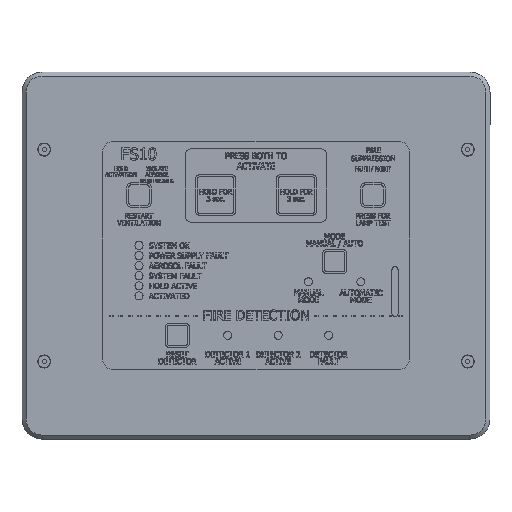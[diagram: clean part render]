
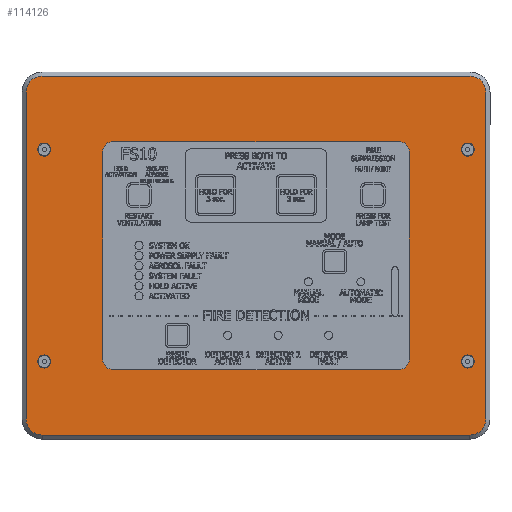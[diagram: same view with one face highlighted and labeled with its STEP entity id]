
A CAD part, top view. The second image highlights one B-rep face of the part: STEP entity #114126.
In plain terms, the highlighted planar face has unit normal (0, 0, 1).
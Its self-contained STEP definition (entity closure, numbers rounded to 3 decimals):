
#5497=FACE_BOUND('',#23947,.T.);
#5498=FACE_BOUND('',#23948,.T.);
#5499=FACE_BOUND('',#23949,.T.);
#5500=FACE_BOUND('',#23950,.T.);
#5501=FACE_BOUND('',#23951,.T.);
#8660=CIRCLE('',#121854,3.25);
#8662=CIRCLE('',#121858,3.25);
#8664=CIRCLE('',#121862,3.25);
#8666=CIRCLE('',#121866,3.25);
#8688=CIRCLE('',#121909,8.);
#8690=CIRCLE('',#121913,8.);
#8692=CIRCLE('',#121917,8.);
#8694=CIRCLE('',#121921,8.);
#8695=CIRCLE('',#121927,5.);
#8696=CIRCLE('',#121928,5.);
#8697=CIRCLE('',#121929,5.);
#8698=CIRCLE('',#121930,5.);
#9459=PLANE('',#121926);
#17468=FACE_OUTER_BOUND('',#23946,.T.);
#23946=EDGE_LOOP('',(#85837,#85838,#85839,#85840,#85841,#85842,#85843,#85844));
#23947=EDGE_LOOP('',(#85845));
#23948=EDGE_LOOP('',(#85846));
#23949=EDGE_LOOP('',(#85847));
#23950=EDGE_LOOP('',(#85848));
#23951=EDGE_LOOP('',(#85849,#85850,#85851,#85852,#85853,#85854,#85855,#85856));
#30926=LINE('',#180756,#42250);
#30931=LINE('',#180770,#42255);
#30935=LINE('',#180782,#42259);
#30939=LINE('',#180794,#42263);
#30946=LINE('',#180811,#42270);
#30947=LINE('',#180815,#42271);
#30948=LINE('',#180819,#42272);
#30949=LINE('',#180823,#42273);
#42250=VECTOR('',#132353,10.);
#42255=VECTOR('',#132366,10.);
#42259=VECTOR('',#132378,10.);
#42263=VECTOR('',#132390,10.);
#42270=VECTOR('',#132413,10.);
#42271=VECTOR('',#132416,10.);
#42272=VECTOR('',#132419,10.);
#42273=VECTOR('',#132422,10.);
#54221=VERTEX_POINT('',#180608);
#54223=VERTEX_POINT('',#180616);
#54225=VERTEX_POINT('',#180624);
#54227=VERTEX_POINT('',#180632);
#54269=VERTEX_POINT('',#180753);
#54270=VERTEX_POINT('',#180755);
#54273=VERTEX_POINT('',#180763);
#54275=VERTEX_POINT('',#180768);
#54277=VERTEX_POINT('',#180775);
#54279=VERTEX_POINT('',#180780);
#54281=VERTEX_POINT('',#180787);
#54283=VERTEX_POINT('',#180792);
#54284=VERTEX_POINT('',#180809);
#54285=VERTEX_POINT('',#180810);
#54286=VERTEX_POINT('',#180812);
#54287=VERTEX_POINT('',#180814);
#54288=VERTEX_POINT('',#180816);
#54289=VERTEX_POINT('',#180818);
#54290=VERTEX_POINT('',#180820);
#54291=VERTEX_POINT('',#180822);
#66172=EDGE_CURVE('',#54221,#54221,#8660,.T.);
#66176=EDGE_CURVE('',#54223,#54223,#8662,.T.);
#66180=EDGE_CURVE('',#54225,#54225,#8664,.T.);
#66184=EDGE_CURVE('',#54227,#54227,#8666,.T.);
#66243=EDGE_CURVE('',#54269,#54270,#30926,.T.);
#66248=EDGE_CURVE('',#54273,#54269,#8688,.T.);
#66250=EDGE_CURVE('',#54275,#54273,#30931,.T.);
#66254=EDGE_CURVE('',#54277,#54275,#8690,.T.);
#66256=EDGE_CURVE('',#54279,#54277,#30935,.T.);
#66260=EDGE_CURVE('',#54281,#54279,#8692,.T.);
#66262=EDGE_CURVE('',#54283,#54281,#30939,.T.);
#66265=EDGE_CURVE('',#54270,#54283,#8694,.T.);
#66271=EDGE_CURVE('',#54284,#54285,#30946,.T.);
#66272=EDGE_CURVE('',#54286,#54285,#8695,.T.);
#66273=EDGE_CURVE('',#54286,#54287,#30947,.T.);
#66274=EDGE_CURVE('',#54288,#54287,#8696,.T.);
#66275=EDGE_CURVE('',#54288,#54289,#30948,.T.);
#66276=EDGE_CURVE('',#54290,#54289,#8697,.T.);
#66277=EDGE_CURVE('',#54290,#54291,#30949,.T.);
#66278=EDGE_CURVE('',#54284,#54291,#8698,.T.);
#85837=ORIENTED_EDGE('',*,*,#66243,.F.);
#85838=ORIENTED_EDGE('',*,*,#66248,.F.);
#85839=ORIENTED_EDGE('',*,*,#66250,.F.);
#85840=ORIENTED_EDGE('',*,*,#66254,.F.);
#85841=ORIENTED_EDGE('',*,*,#66256,.F.);
#85842=ORIENTED_EDGE('',*,*,#66260,.F.);
#85843=ORIENTED_EDGE('',*,*,#66262,.F.);
#85844=ORIENTED_EDGE('',*,*,#66265,.F.);
#85845=ORIENTED_EDGE('',*,*,#66172,.T.);
#85846=ORIENTED_EDGE('',*,*,#66176,.T.);
#85847=ORIENTED_EDGE('',*,*,#66180,.T.);
#85848=ORIENTED_EDGE('',*,*,#66184,.T.);
#85849=ORIENTED_EDGE('',*,*,#66271,.T.);
#85850=ORIENTED_EDGE('',*,*,#66272,.F.);
#85851=ORIENTED_EDGE('',*,*,#66273,.T.);
#85852=ORIENTED_EDGE('',*,*,#66274,.F.);
#85853=ORIENTED_EDGE('',*,*,#66275,.T.);
#85854=ORIENTED_EDGE('',*,*,#66276,.F.);
#85855=ORIENTED_EDGE('',*,*,#66277,.T.);
#85856=ORIENTED_EDGE('',*,*,#66278,.F.);
#114126=ADVANCED_FACE('',(#17468,#5497,#5498,#5499,#5500,#5501),#9459,.T.);
#121854=AXIS2_PLACEMENT_3D('',#180610,#132203,#132204);
#121858=AXIS2_PLACEMENT_3D('',#180618,#132213,#132214);
#121862=AXIS2_PLACEMENT_3D('',#180626,#132223,#132224);
#121866=AXIS2_PLACEMENT_3D('',#180634,#132233,#132234);
#121909=AXIS2_PLACEMENT_3D('',#180765,#132361,#132362);
#121913=AXIS2_PLACEMENT_3D('',#180777,#132373,#132374);
#121917=AXIS2_PLACEMENT_3D('',#180789,#132385,#132386);
#121921=AXIS2_PLACEMENT_3D('',#180798,#132396,#132397);
#121926=AXIS2_PLACEMENT_3D('',#180808,#132411,#132412);
#121927=AXIS2_PLACEMENT_3D('',#180813,#132414,#132415);
#121928=AXIS2_PLACEMENT_3D('',#180817,#132417,#132418);
#121929=AXIS2_PLACEMENT_3D('',#180821,#132420,#132421);
#121930=AXIS2_PLACEMENT_3D('',#180824,#132423,#132424);
#132203=DIRECTION('center_axis',(0.,0.,-1.));
#132204=DIRECTION('ref_axis',(1.,0.,0.));
#132213=DIRECTION('center_axis',(0.,0.,-1.));
#132214=DIRECTION('ref_axis',(1.,0.,0.));
#132223=DIRECTION('center_axis',(0.,0.,-1.));
#132224=DIRECTION('ref_axis',(1.,0.,0.));
#132233=DIRECTION('center_axis',(0.,0.,-1.));
#132234=DIRECTION('ref_axis',(1.,0.,0.));
#132353=DIRECTION('',(0.,1.,0.));
#132361=DIRECTION('center_axis',(0.,0.,-1.));
#132362=DIRECTION('ref_axis',(-0.707,-0.707,0.));
#132366=DIRECTION('',(-1.,0.,0.));
#132373=DIRECTION('center_axis',(0.,0.,-1.));
#132374=DIRECTION('ref_axis',(0.707,-0.707,0.));
#132378=DIRECTION('',(0.,-1.,0.));
#132385=DIRECTION('center_axis',(0.,0.,-1.));
#132386=DIRECTION('ref_axis',(0.707,0.707,0.));
#132390=DIRECTION('',(1.,0.,0.));
#132396=DIRECTION('center_axis',(0.,0.,-1.));
#132397=DIRECTION('ref_axis',(-0.707,0.707,0.));
#132411=DIRECTION('center_axis',(0.,0.,1.));
#132412=DIRECTION('ref_axis',(1.,0.,0.));
#132413=DIRECTION('',(0.,-1.,0.));
#132414=DIRECTION('center_axis',(0.,0.,1.));
#132415=DIRECTION('ref_axis',(0.707,-0.707,0.));
#132416=DIRECTION('',(-1.,0.,0.));
#132417=DIRECTION('center_axis',(0.,0.,1.));
#132418=DIRECTION('ref_axis',(-0.707,-0.707,0.));
#132419=DIRECTION('',(0.,1.,0.));
#132420=DIRECTION('center_axis',(0.,0.,1.));
#132421=DIRECTION('ref_axis',(-0.707,0.707,0.));
#132422=DIRECTION('',(1.,0.,0.));
#132423=DIRECTION('center_axis',(0.,0.,1.));
#132424=DIRECTION('ref_axis',(0.707,0.707,0.));
#180608=CARTESIAN_POINT('',(101.75,52.5,5.));
#180610=CARTESIAN_POINT('Origin',(105.,52.5,5.));
#180616=CARTESIAN_POINT('',(-108.25,52.5,5.));
#180618=CARTESIAN_POINT('Origin',(-105.,52.5,5.));
#180624=CARTESIAN_POINT('',(-108.25,-52.5,5.));
#180626=CARTESIAN_POINT('Origin',(-105.,-52.5,5.));
#180632=CARTESIAN_POINT('',(101.75,-52.5,5.));
#180634=CARTESIAN_POINT('Origin',(105.,-52.5,5.));
#180753=CARTESIAN_POINT('',(-114.,-81.,5.));
#180755=CARTESIAN_POINT('',(-114.,81.,5.));
#180756=CARTESIAN_POINT('',(-114.,45.5,5.));
#180763=CARTESIAN_POINT('',(-106.,-89.,5.));
#180765=CARTESIAN_POINT('Origin',(-106.,-81.,5.));
#180768=CARTESIAN_POINT('',(106.,-89.,5.));
#180770=CARTESIAN_POINT('',(-58.,-89.,5.));
#180775=CARTESIAN_POINT('',(114.,-81.,5.));
#180777=CARTESIAN_POINT('Origin',(106.,-81.,5.));
#180780=CARTESIAN_POINT('',(114.,81.,5.));
#180782=CARTESIAN_POINT('',(114.,-45.5,5.));
#180787=CARTESIAN_POINT('',(106.,89.,5.));
#180789=CARTESIAN_POINT('Origin',(106.,81.,5.));
#180792=CARTESIAN_POINT('',(-106.,89.,5.));
#180794=CARTESIAN_POINT('',(58.,89.,5.));
#180798=CARTESIAN_POINT('Origin',(-106.,81.,5.));
#180808=CARTESIAN_POINT('Origin',(0.,0.,5.));
#180809=CARTESIAN_POINT('',(76.,51.5,5.));
#180810=CARTESIAN_POINT('',(76.,-51.5,5.));
#180811=CARTESIAN_POINT('',(76.,28.25,5.));
#180812=CARTESIAN_POINT('',(71.,-56.5,5.));
#180813=CARTESIAN_POINT('Origin',(71.,-51.5,5.));
#180814=CARTESIAN_POINT('',(-71.,-56.5,5.));
#180815=CARTESIAN_POINT('',(38.,-56.5,5.));
#180816=CARTESIAN_POINT('',(-76.,-51.5,5.));
#180817=CARTESIAN_POINT('Origin',(-71.,-51.5,5.));
#180818=CARTESIAN_POINT('',(-76.,51.5,5.));
#180819=CARTESIAN_POINT('',(-76.,-28.25,5.));
#180820=CARTESIAN_POINT('',(-71.,56.5,5.));
#180821=CARTESIAN_POINT('Origin',(-71.,51.5,5.));
#180822=CARTESIAN_POINT('',(71.,56.5,5.));
#180823=CARTESIAN_POINT('',(-38.,56.5,5.));
#180824=CARTESIAN_POINT('Origin',(71.,51.5,5.));
